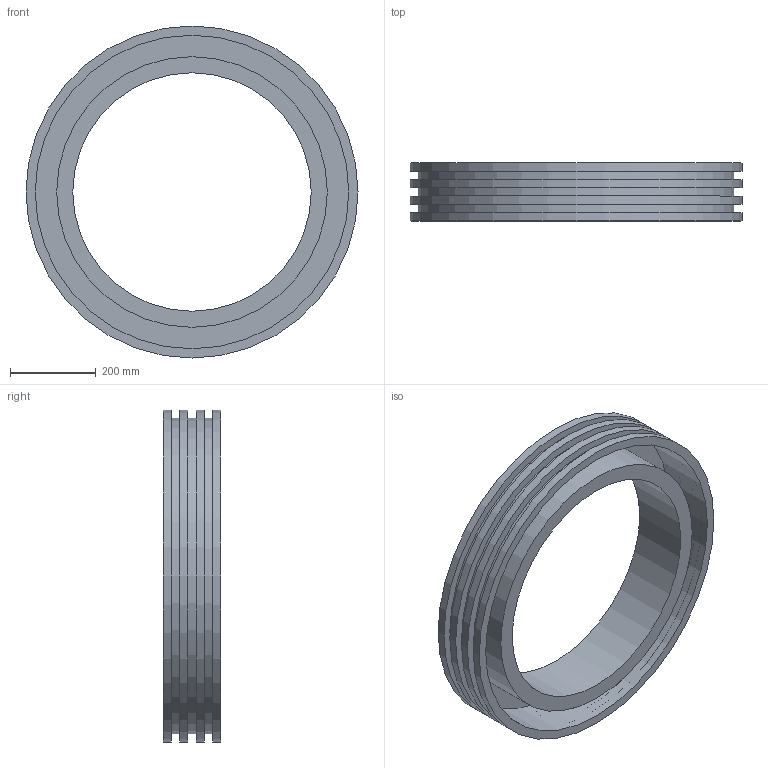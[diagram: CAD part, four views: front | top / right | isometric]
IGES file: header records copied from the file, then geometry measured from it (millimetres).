
Global section: file name: 37020630.ipt; native system: Autodesk Inventor 2015; preprocessor: unknown; author: Кирилл,,11,0; organization: 20170830.190241; date: 20171106.093323; units: millimetre
Bounding box: 773 x 135 x 773 mm (x, y, z)
Volume: 14658486.6 mm3; surface area: 1821087.5 mm2
Topology: 1 solids, 1 shells, 20 faces, 34 edges, 24 vertices
Faces by surface type: plane 10, cylinder 8, revolution 2
Full cylindrical faces by diameter (mm): 630 x1, 734.35 x3, 773 x4
